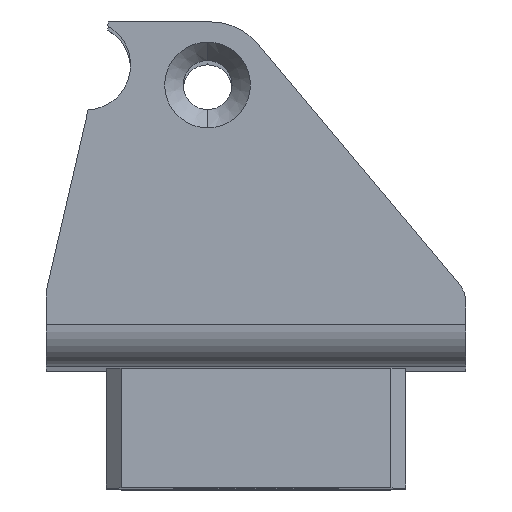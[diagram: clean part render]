
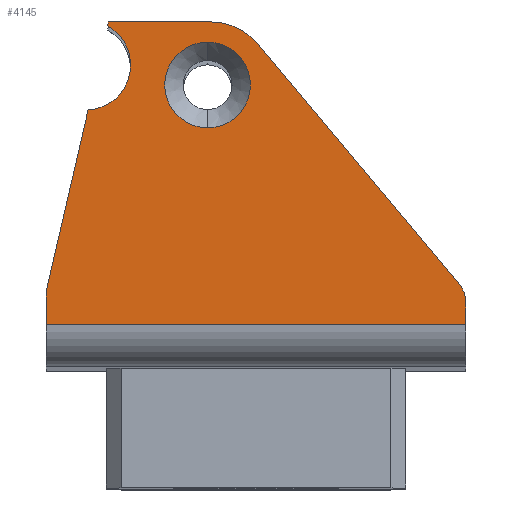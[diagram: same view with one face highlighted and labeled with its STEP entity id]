
A CAD part, top view. The second image highlights one B-rep face of the part: STEP entity #4145.
In plain terms, the highlighted planar face has unit normal (0, 0, 1).
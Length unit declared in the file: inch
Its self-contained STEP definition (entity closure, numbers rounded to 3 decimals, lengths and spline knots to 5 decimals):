
#45 = LINE ( 'NONE', #228, #868 ) ;
#61 = CARTESIAN_POINT ( 'NONE',  ( 0., 0.82677, 3.32283 ) ) ;
#133 = CARTESIAN_POINT ( 'NONE',  ( -0.55118, 0., 3.32283 ) ) ;
#175 = VERTEX_POINT ( 'NONE', #6413 ) ;
#228 = CARTESIAN_POINT ( 'NONE',  ( 0.3816, 0.3202, 3.32283 ) ) ;
#372 = FACE_BOUND ( 'NONE', #4421, .T. ) ;
#400 = ORIENTED_EDGE ( 'NONE', *, *, #7341, .T. ) ;
#516 = CARTESIAN_POINT ( 'NONE',  ( 0., 0., 3.32283 ) ) ;
#673 = AXIS2_PLACEMENT_3D ( 'NONE', #516, #4644, #1665 ) ;
#868 = VECTOR ( 'NONE', #1444, 39.37008 ) ;
#906 = CARTESIAN_POINT ( 'NONE',  ( -0.44724, 0.71371, 3.32283 ) ) ;
#971 = LINE ( 'NONE', #3171, #5494 ) ;
#978 = CIRCLE ( 'NONE', #3175, 0.07874 ) ;
#1001 = CIRCLE ( 'NONE', #5263, 0.11811 ) ;
#1050 = CARTESIAN_POINT ( 'NONE',  ( -0.11689, 0.82677, 3.32283 ) ) ;
#1066 = CARTESIAN_POINT ( 'NONE',  ( -0.55118, 0.032, 3.32283 ) ) ;
#1237 = VECTOR ( 'NONE', #5193, 39.37008 ) ;
#1444 = DIRECTION ( 'NONE',  ( -0.643, 0.766, 0. ) ) ;
#1502 = CIRCLE ( 'NONE', #3555, 0.1125 ) ;
#1527 = CARTESIAN_POINT ( 'NONE',  ( 0.55118, 0.08945, 3.32283 ) ) ;
#1665 = DIRECTION ( 'NONE',  ( -1., 0., 0. ) ) ;
#1924 = EDGE_CURVE ( 'NONE', #4393, #2486, #4219, .T. ) ;
#1939 = CARTESIAN_POINT ( 'NONE',  ( -0.54918, 0.12679, 3.32283 ) ) ;
#2001 = CARTESIAN_POINT ( 'NONE',  ( -0.55118, 0.032, 3.32283 ) ) ;
#2032 = ORIENTED_EDGE ( 'NONE', *, *, #3769, .F. ) ;
#2072 = EDGE_CURVE ( 'NONE', #5626, #4749, #45, .T. ) ;
#2079 = EDGE_CURVE ( 'NONE', #175, #4899, #971, .T. ) ;
#2148 = AXIS2_PLACEMENT_3D ( 'NONE', #3169, #4955, #2792 ) ;
#2233 = ORIENTED_EDGE ( 'NONE', *, *, #6141, .T. ) ;
#2271 = CARTESIAN_POINT ( 'NONE',  ( -0.54918, 0.12679, 3.32283 ) ) ;
#2287 = CARTESIAN_POINT ( 'NONE',  ( 0.53276, 0.14006, 3.32283 ) ) ;
#2337 = CARTESIAN_POINT ( 'NONE',  ( -0.38757, 0.82677, 3.32283 ) ) ;
#2486 = VERTEX_POINT ( 'NONE', #2337 ) ;
#2488 = DIRECTION ( 'NONE',  ( 0., -1., 0. ) ) ;
#2528 = ORIENTED_EDGE ( 'NONE', *, *, #5848, .F. ) ;
#2550 = EDGE_CURVE ( 'NONE', #2486, #6933, #2807, .T. ) ;
#2658 = DIRECTION ( 'NONE',  ( -1., 0., 0. ) ) ;
#2792 = DIRECTION ( 'NONE',  ( -1., 0., 0. ) ) ;
#2805 = CARTESIAN_POINT ( 'NONE',  ( -0.12719, 0.66142, 3.32283 ) ) ;
#2807 = LINE ( 'NONE', #1939, #3356 ) ;
#2859 = CARTESIAN_POINT ( 'NONE',  ( -0.12719, 0.54892, 3.32283 ) ) ;
#2968 = FACE_OUTER_BOUND ( 'NONE', #4825, .T. ) ;
#3125 = ORIENTED_EDGE ( 'NONE', *, *, #4220, .F. ) ;
#3169 = CARTESIAN_POINT ( 'NONE',  ( -0.11689, 0.66929, 3.32283 ) ) ;
#3171 = CARTESIAN_POINT ( 'NONE',  ( 0.55118, 0., 3.32283 ) ) ;
#3175 = AXIS2_PLACEMENT_3D ( 'NONE', #3609, #5389, #6044 ) ;
#3356 = VECTOR ( 'NONE', #7077, 39.37008 ) ;
#3393 = DIRECTION ( 'NONE',  ( 0., -1., 0. ) ) ;
#3440 = CIRCLE ( 'NONE', #2148, 0.15748 ) ;
#3550 = ORIENTED_EDGE ( 'NONE', *, *, #2079, .T. ) ;
#3555 = AXIS2_PLACEMENT_3D ( 'NONE', #2805, #6331, #3393 ) ;
#3566 = EDGE_CURVE ( 'NONE', #4749, #4393, #3440, .T. ) ;
#3576 = DIRECTION ( 'NONE',  ( 0., -1., 0. ) ) ;
#3609 = CARTESIAN_POINT ( 'NONE',  ( 0.47244, 0.08945, 3.32283 ) ) ;
#3646 = VERTEX_POINT ( 'NONE', #5716 ) ;
#3727 = DIRECTION ( 'NONE',  ( 0., 1., 0. ) ) ;
#3769 = EDGE_CURVE ( 'NONE', #175, #5464, #5379, .T. ) ;
#3828 = AXIS2_PLACEMENT_3D ( 'NONE', #6456, #7130, #3576 ) ;
#4145 = ADVANCED_FACE ( 'NONE', ( #372, #2968 ), #5855, .F. ) ;
#4219 = LINE ( 'NONE', #61, #5403 ) ;
#4220 = EDGE_CURVE ( 'NONE', #6190, #6421, #1502, .T. ) ;
#4233 = DIRECTION ( 'NONE',  ( -1., 0., 0. ) ) ;
#4243 = VERTEX_POINT ( 'NONE', #4512 ) ;
#4383 = CARTESIAN_POINT ( 'NONE',  ( -0.12719, 0.77392, 3.32283 ) ) ;
#4393 = VERTEX_POINT ( 'NONE', #1050 ) ;
#4421 = EDGE_LOOP ( 'NONE', ( #2528, #3125 ) ) ;
#4512 = CARTESIAN_POINT ( 'NONE',  ( -0.55118, 0.11811, 3.32283 ) ) ;
#4515 = CIRCLE ( 'NONE', #3828, 0.1125 ) ;
#4644 = DIRECTION ( 'NONE',  ( 0., 0., -1. ) ) ;
#4749 = VERTEX_POINT ( 'NONE', #5470 ) ;
#4825 = EDGE_LOOP ( 'NONE', ( #6091, #7122, #5050, #4906, #2233, #6277, #7395, #2032, #3550, #400 ) ) ;
#4895 = VECTOR ( 'NONE', #5766, 39.37008 ) ;
#4899 = VERTEX_POINT ( 'NONE', #1527 ) ;
#4906 = ORIENTED_EDGE ( 'NONE', *, *, #2550, .T. ) ;
#4955 = DIRECTION ( 'NONE',  ( 0., 0., 1. ) ) ;
#4973 = LINE ( 'NONE', #133, #6477 ) ;
#5032 = EDGE_CURVE ( 'NONE', #3646, #4243, #5070, .T. ) ;
#5050 = ORIENTED_EDGE ( 'NONE', *, *, #1924, .T. ) ;
#5070 = LINE ( 'NONE', #2271, #4895 ) ;
#5193 = DIRECTION ( 'NONE',  ( -1., 0., 0. ) ) ;
#5263 = AXIS2_PLACEMENT_3D ( 'NONE', #906, #6208, #2658 ) ;
#5339 = EDGE_CURVE ( 'NONE', #4243, #5464, #4973, .T. ) ;
#5379 = LINE ( 'NONE', #1066, #1237 ) ;
#5389 = DIRECTION ( 'NONE',  ( 0., 0., 1. ) ) ;
#5403 = VECTOR ( 'NONE', #4233, 39.37008 ) ;
#5464 = VERTEX_POINT ( 'NONE', #2001 ) ;
#5470 = CARTESIAN_POINT ( 'NONE',  ( 0.00375, 0.77052, 3.32283 ) ) ;
#5494 = VECTOR ( 'NONE', #3727, 39.37008 ) ;
#5626 = VERTEX_POINT ( 'NONE', #2287 ) ;
#5716 = CARTESIAN_POINT ( 'NONE',  ( -0.4409, 0.59577, 3.32283 ) ) ;
#5766 = DIRECTION ( 'NONE',  ( -0.225, -0.974, 0. ) ) ;
#5848 = EDGE_CURVE ( 'NONE', #6421, #6190, #4515, .T. ) ;
#5855 = PLANE ( 'NONE',  #673 ) ;
#6044 = DIRECTION ( 'NONE',  ( -1., 0., 0. ) ) ;
#6091 = ORIENTED_EDGE ( 'NONE', *, *, #2072, .T. ) ;
#6141 = EDGE_CURVE ( 'NONE', #6933, #3646, #1001, .T. ) ;
#6190 = VERTEX_POINT ( 'NONE', #4383 ) ;
#6197 = CARTESIAN_POINT ( 'NONE',  ( -0.38984, 0.81694, 3.32283 ) ) ;
#6208 = DIRECTION ( 'NONE',  ( 0., 0., -1. ) ) ;
#6277 = ORIENTED_EDGE ( 'NONE', *, *, #5032, .T. ) ;
#6331 = DIRECTION ( 'NONE',  ( 0., 0., 1. ) ) ;
#6413 = CARTESIAN_POINT ( 'NONE',  ( 0.55118, 0.032, 3.32283 ) ) ;
#6421 = VERTEX_POINT ( 'NONE', #2859 ) ;
#6456 = CARTESIAN_POINT ( 'NONE',  ( -0.12719, 0.66142, 3.32283 ) ) ;
#6477 = VECTOR ( 'NONE', #2488, 39.37008 ) ;
#6933 = VERTEX_POINT ( 'NONE', #6197 ) ;
#7077 = DIRECTION ( 'NONE',  ( -0.225, -0.974, 0. ) ) ;
#7122 = ORIENTED_EDGE ( 'NONE', *, *, #3566, .T. ) ;
#7130 = DIRECTION ( 'NONE',  ( 0., 0., 1. ) ) ;
#7341 = EDGE_CURVE ( 'NONE', #4899, #5626, #978, .T. ) ;
#7395 = ORIENTED_EDGE ( 'NONE', *, *, #5339, .T. ) ;
